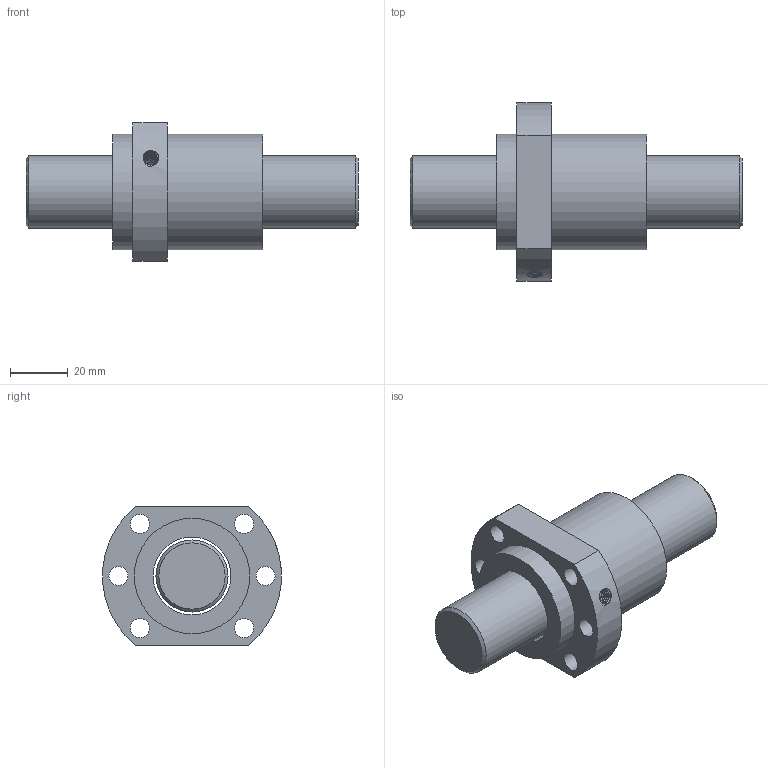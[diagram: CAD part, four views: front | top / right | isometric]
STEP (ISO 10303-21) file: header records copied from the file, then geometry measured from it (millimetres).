
FILE_DESCRIPTION(/* description */ ('Unknown','CAx-IF Rec.Pracs.---Representation and Presentation of Product Manufacturing Information (PMI)---4.0---2014-10-13','CAx-IF Rec.Pracs.---3D Tessellated Geometry---0.4---2014-09-14','2;1'),/* implementation_level */ '2;1');
FILE_NAME(/* name */ 'SFA2510-3.8',/* time_stamp */ '2020-12-08T08:30:46+08:00',/* author */ ('Unknown'),/* organization */ ('Unknown'),/* preprocessor_version */ 'ST-DEVELOPER v16.7',/* originating_system */ 'Solid Edge',/* authorisation */ 'Unknown');
FILE_SCHEMA (('AP242_MANAGED_MODEL_BASED_3D_ENGINEERING_MIM_LF { 1 0 10303 442 1 1 4 }'));
Length unit declared in the file: millimetre
Products named in the file (1): SFA2510-3
Bounding box: 115 x 61.8 x 48 mm (x, y, z)
Volume: 105827.1 mm3; surface area: 27137.2 mm2
Topology: 2 solids, 2 shells, 30 faces, 69 edges, 45 vertices
Faces by surface type: cylinder 16, plane 9, cone 3, bspline 2
Full cylindrical faces by diameter (mm): 4 x1, 4.917 x1, 6.6 x6, 25 x1, 27 x1, 40 x2
Entity records: 2932 total; most frequent: CARTESIAN_POINT 2230, DIRECTION 134, ORIENTED_EDGE 100, AXIS2_PLACEMENT_3D 64, EDGE_LOOP 63, FACE_BOUND 63, EDGE_CURVE 50, VERTEX_POINT 41
